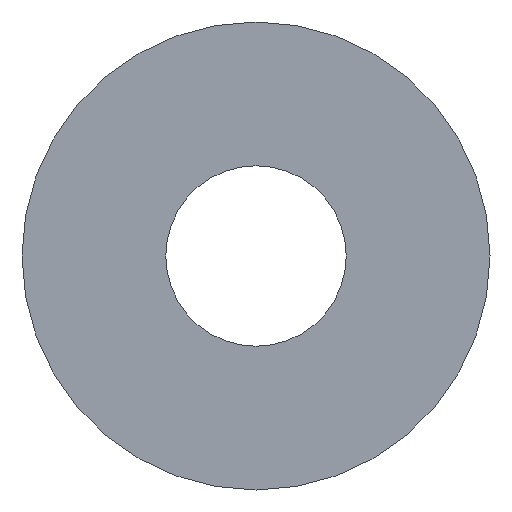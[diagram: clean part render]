
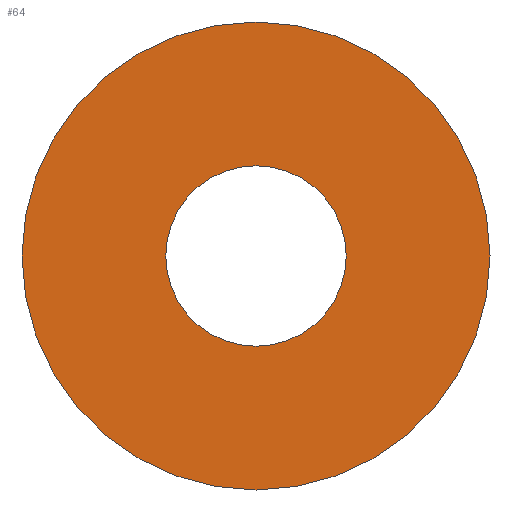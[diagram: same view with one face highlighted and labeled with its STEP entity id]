
A CAD part, front view. The second image highlights one B-rep face of the part: STEP entity #64.
In plain terms, the highlighted planar face has unit normal (0, -1, 0).
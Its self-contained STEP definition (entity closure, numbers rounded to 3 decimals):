
#17 = DIRECTION ( 'NONE',  ( 0., 0., 1. ) ) ;
#23 = CIRCLE ( 'NONE', #83, 160. ) ;
#28 = CIRCLE ( 'NONE', #206, 415. ) ;
#35 = CARTESIAN_POINT ( 'NONE',  ( 0., 0., 0. ) ) ;
#38 = CARTESIAN_POINT ( 'NONE',  ( 0., 0., 415. ) ) ;
#39 = DIRECTION ( 'NONE',  ( 0., 0., 1. ) ) ;
#43 = EDGE_CURVE ( 'NONE', #225, #223, #238, .T. ) ;
#57 = DIRECTION ( 'NONE',  ( 0., 0., 1. ) ) ;
#64 = ADVANCED_FACE ( 'NONE', ( #98, #248 ), #114, .F. ) ;
#67 = EDGE_CURVE ( 'NONE', #223, #225, #28, .T. ) ;
#69 = ORIENTED_EDGE ( 'NONE', *, *, #43, .F. ) ;
#83 = AXIS2_PLACEMENT_3D ( 'NONE', #156, #139, #57 ) ;
#92 = EDGE_CURVE ( 'NONE', #128, #110, #23, .T. ) ;
#98 = FACE_OUTER_BOUND ( 'NONE', #244, .T. ) ;
#99 = CARTESIAN_POINT ( 'NONE',  ( 0., 0., -160. ) ) ;
#109 = EDGE_LOOP ( 'NONE', ( #208, #127 ) ) ;
#110 = VERTEX_POINT ( 'NONE', #249 ) ;
#114 = PLANE ( 'NONE',  #186 ) ;
#119 = DIRECTION ( 'NONE',  ( 0., 1., 0. ) ) ;
#127 = ORIENTED_EDGE ( 'NONE', *, *, #138, .T. ) ;
#128 = VERTEX_POINT ( 'NONE', #99 ) ;
#131 = AXIS2_PLACEMENT_3D ( 'NONE', #150, #135, #211 ) ;
#134 = DIRECTION ( 'NONE',  ( 0., 1., 0. ) ) ;
#135 = DIRECTION ( 'NONE',  ( 0., 1., 0. ) ) ;
#138 = EDGE_CURVE ( 'NONE', #110, #128, #222, .T. ) ;
#139 = DIRECTION ( 'NONE',  ( 0., 1., 0. ) ) ;
#149 = ORIENTED_EDGE ( 'NONE', *, *, #67, .F. ) ;
#150 = CARTESIAN_POINT ( 'NONE',  ( 0., 0., 0. ) ) ;
#152 = CARTESIAN_POINT ( 'NONE',  ( 0., 0., 0. ) ) ;
#156 = CARTESIAN_POINT ( 'NONE',  ( 0., 0., 0. ) ) ;
#158 = CARTESIAN_POINT ( 'NONE',  ( 0., 0., -415. ) ) ;
#182 = AXIS2_PLACEMENT_3D ( 'NONE', #152, #134, #212 ) ;
#186 = AXIS2_PLACEMENT_3D ( 'NONE', #35, #119, #17 ) ;
#206 = AXIS2_PLACEMENT_3D ( 'NONE', #215, #226, #39 ) ;
#208 = ORIENTED_EDGE ( 'NONE', *, *, #92, .T. ) ;
#211 = DIRECTION ( 'NONE',  ( 0., 0., 1. ) ) ;
#212 = DIRECTION ( 'NONE',  ( 0., 0., 1. ) ) ;
#215 = CARTESIAN_POINT ( 'NONE',  ( 0., 0., 0. ) ) ;
#222 = CIRCLE ( 'NONE', #182, 160. ) ;
#223 = VERTEX_POINT ( 'NONE', #38 ) ;
#225 = VERTEX_POINT ( 'NONE', #158 ) ;
#226 = DIRECTION ( 'NONE',  ( 0., 1., 0. ) ) ;
#238 = CIRCLE ( 'NONE', #131, 415. ) ;
#244 = EDGE_LOOP ( 'NONE', ( #69, #149 ) ) ;
#248 = FACE_BOUND ( 'NONE', #109, .T. ) ;
#249 = CARTESIAN_POINT ( 'NONE',  ( 0., 0., 160. ) ) ;
